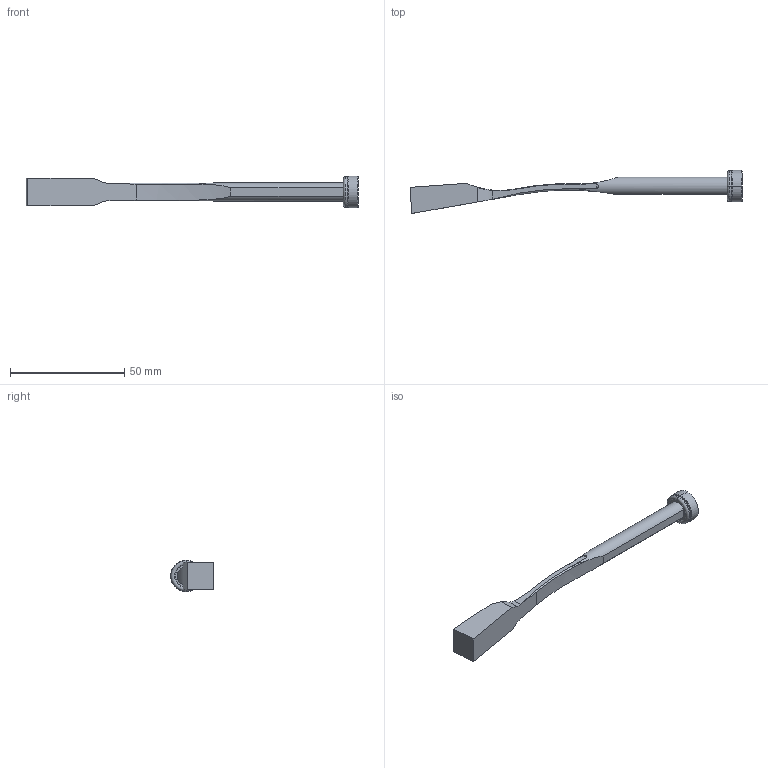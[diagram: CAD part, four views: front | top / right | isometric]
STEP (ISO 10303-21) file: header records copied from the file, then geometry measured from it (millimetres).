
FILE_DESCRIPTION (( 'STEP AP214' ), '1' );
FILE_NAME ('PW081225.STEP', '2020-02-10T08:46:35', ( '' ), ( '' ), 'SwSTEP 2.0', 'SolidWorks 2018', '' );
FILE_SCHEMA (( 'AUTOMOTIVE_DESIGN' ));
Length unit declared in the file: millimetre
Products named in the file (5): PW081225; 9PW081225; 3JT9.5X2X13.5; 1DIN7984516_DIN 7984 - M5 x 16 --- 16C; 9FP1406M5
Assembly tree (4 placements, depth 2):
  PW081225
    9PW081225
    9FP1406M5
    1DIN7984516_DIN 7984 - M5 x 16 --- 16C
    3JT9.5X2X13.5
Bounding box: 145.52 x 18.87 x 13.8 mm (x, y, z)
Volume: 8168.5 mm3; surface area: 5912.8 mm2
Topology: 4 solids, 4 shells, 93 faces, 212 edges, 126 vertices
Faces by surface type: plane 33, cylinder 20, cone 20, torus 16, bspline 4
Entity records: 2978 total; most frequent: CARTESIAN_POINT 618, DIRECTION 466, ORIENTED_EDGE 416, EDGE_CURVE 208, AXIS2_PLACEMENT_3D 190, VERTEX_POINT 126, EDGE_LOOP 100, CIRCLE 94
